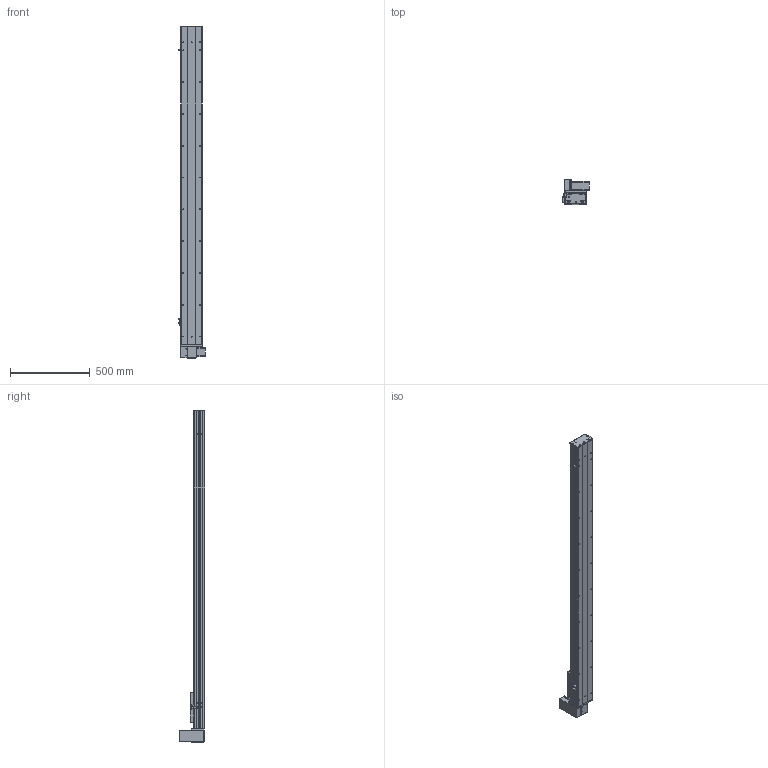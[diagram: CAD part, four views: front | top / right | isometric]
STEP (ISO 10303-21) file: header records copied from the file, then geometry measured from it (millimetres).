
FILE_DESCRIPTION (( 'STEP AP203' ), '1' );
FILE_NAME ('Y135CB-D90-S1700-UR-P400W.STEP', '2020-02-18T04:20:54', ( '微软用户' ), ( '微软中国' ), 'SwSTEP 2.0', 'SolidWorks 2017', '' );
FILE_SCHEMA (( 'CONFIG_CONTROL_DESIGN' ));
Length unit declared in the file: millimetre
Products named in the file (18): Y135CB-耜裔; Y135CB-D90-S1700-UR-P400W; 135CB--詩湍-CE; 135CB---遴掛极.-; Y100-135俋离換覜ん--; 35CB---喘謫眊楊擘啣; Y135C-陔俋离換覜結え-; 0B-埴倛裔啣; 5C--俋欶; 0B-源倛裔啣; C-雄赽釱--; 0B-萇儂楊擘啣; Y10B--々湍喘謫眊--666; san松下电机400不带刹车----; Y10B-耜蚾蟀諉啣----; 5CB --掛极耜裔啣-; 00B-俋欶BM--; C-詩湍揤踡え-陔
Assembly tree (21 placements, depth 2):
  Y135CB-D90-S1700-UR-P400W
    Y135CB-耜裔
    135CB---遴掛极.-
    35CB---喘謫眊楊擘啣
    0B-埴倛裔啣
    0B-源倛裔啣
    0B-萇儂楊擘啣
    san松下电机400不带刹车----
    5CB --掛极耜裔啣-  x2
    C-詩湍揤踡え-陔  x2
    135CB--詩湍-CE
    Y100-135俋离換覜ん--  x3
    Y135C-陔俋离換覜結え-
    5C--俋欶
    C-雄赽釱--
    Y10B--々湍喘謫眊--666
    Y10B-耜蚾蟀諉啣----
    00B-俋欶BM--
Bounding box: 167.5 x 158.7 x 2088 mm (x, y, z)
Volume: 6204176.7 mm3; surface area: 2446037.4 mm2
Topology: 21 solids, 21 shells, 961 faces, 2599 edges, 1722 vertices
Faces by surface type: cylinder 489, plane 456, cone 16
Entity records: 30157 total; most frequent: DIRECTION 5011, CARTESIAN_POINT 4988, ORIENTED_EDGE 4674, EDGE_CURVE 2337, AXIS2_PLACEMENT_3D 1833, VERTEX_POINT 1550, LINE 1345, VECTOR 1345
